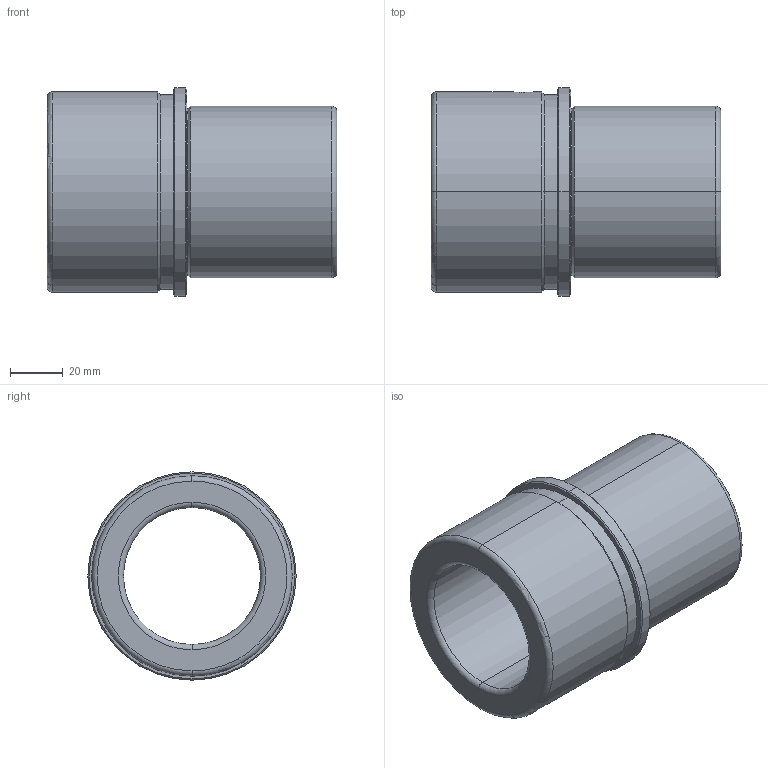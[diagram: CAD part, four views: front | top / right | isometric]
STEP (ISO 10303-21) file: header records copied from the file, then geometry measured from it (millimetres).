
FILE_DESCRIPTION(('CATIA V5 STEP Exchange'),'2;1');
FILE_NAME('C:\Users\Utente\Desktop\IO LAVORO\3D X SITO CF\X SITO\FAMO\FAMO-SF1-D52 x 110.stp','2021-01-06T17:04:49+00:00',('none'),('none'),'CATIA Version 5 Release 20 GA (IN-10)','CATIA V5 STEP AP203','none');
FILE_SCHEMA(('CONFIG_CONTROL_DESIGN'));
Length unit declared in the file: millimetre
Products named in the file (1): FAMO-SF1-D52 x 110
Bounding box: 110 x 79 x 79 mm (x, y, z)
Volume: 194536.4 mm3; surface area: 48129 mm2
Topology: 1 solids, 1 shells, 37 faces, 126 edges, 94 vertices
Faces by surface type: cylinder 14, cone 10, torus 8, plane 5
Entity records: 1675 total; most frequent: CARTESIAN_POINT 545, ORIENTED_EDGE 252, DIRECTION 179, EDGE_CURVE 126, AXIS2_PLACEMENT_3D 119, VERTEX_POINT 94, CIRCLE 81, EDGE_LOOP 44
